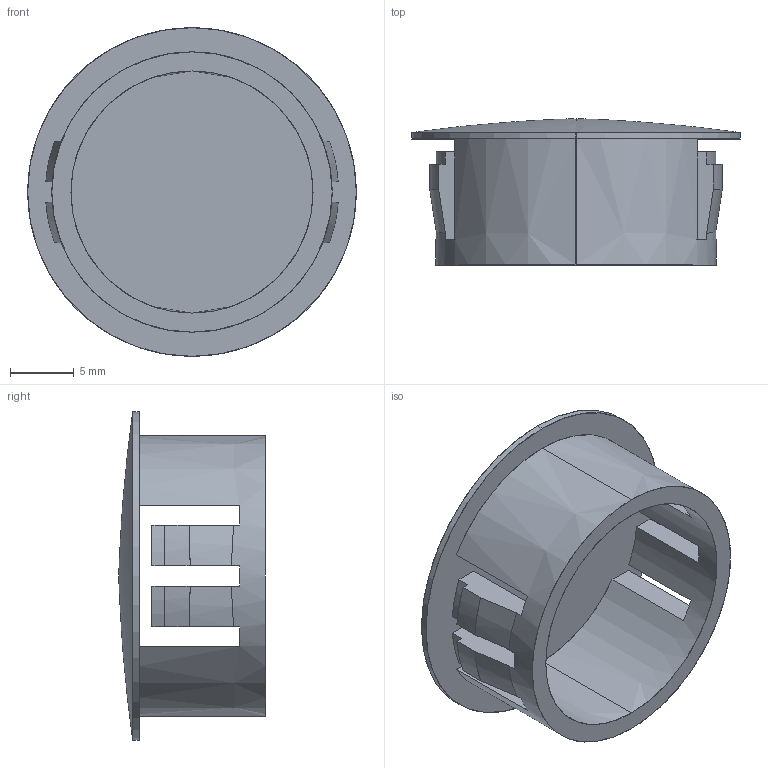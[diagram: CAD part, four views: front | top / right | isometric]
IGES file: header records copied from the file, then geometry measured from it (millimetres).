
Start section: SolidWorks IGES FILE using analytic representation for surfaces
Global section: file name: \\Ls-wvld1d\share\シブタニ\3D設計\ゴム\EBHP-11\EBHP-11.IGS; native system: SolidWorks 2003 by SolidWorks Corporation; preprocessor: Version 5.3; author: user; date: 130803.140047; units: millimetre
Bounding box: 25.8 x 11.5 x 25.8 mm (x, y, z)
Surface area: 2414.2 mm2 (no closed solid volume)
Topology: 0 solids, 0 shells, 48 faces, 452 edges, 450 vertices
Faces by surface type: bspline 30, revolution 18
